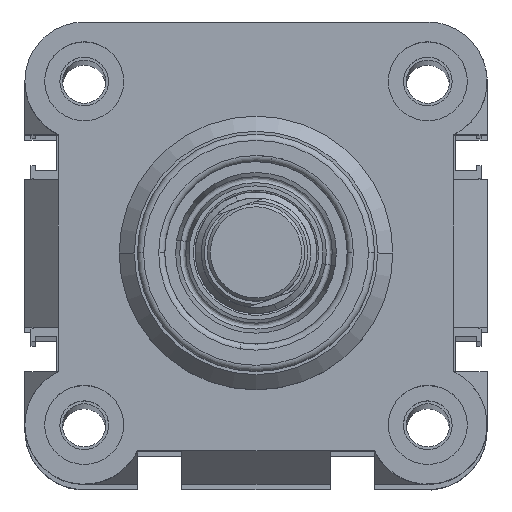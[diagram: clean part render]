
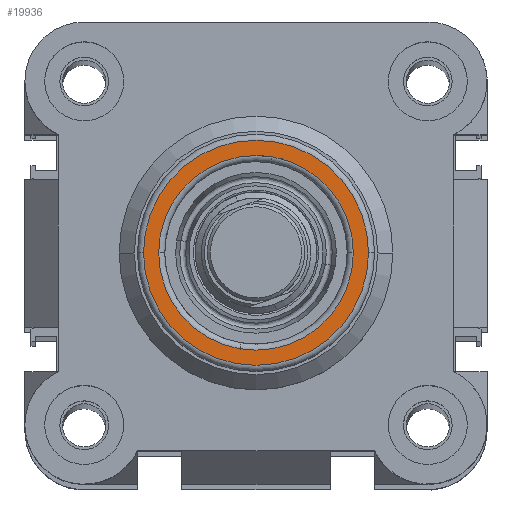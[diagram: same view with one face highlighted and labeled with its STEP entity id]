
A CAD part, top view. The second image highlights one B-rep face of the part: STEP entity #19936.
In plain terms, the highlighted planar face has unit normal (0, 0, 1).
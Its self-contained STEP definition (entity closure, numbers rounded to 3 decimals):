
#433 = ORIENTED_EDGE ( 'NONE', *, *, #19799, .T. ) ;
#803 = PLANE ( 'NONE',  #16048 ) ;
#947 = DIRECTION ( 'NONE',  ( 0., 0., 1. ) ) ;
#2030 = DIRECTION ( 'NONE',  ( 1., 0., 0. ) ) ;
#2181 = CARTESIAN_POINT ( 'NONE',  ( 38., 38., 62. ) ) ;
#2306 = ORIENTED_EDGE ( 'NONE', *, *, #6113, .T. ) ;
#2461 = CARTESIAN_POINT ( 'NONE',  ( 38., 38., 62. ) ) ;
#2465 = CARTESIAN_POINT ( 'NONE',  ( 38., 38., 62. ) ) ;
#3268 = CIRCLE ( 'NONE', #14479, 18.5 ) ;
#3815 = CARTESIAN_POINT ( 'NONE',  ( 38., 38., 62. ) ) ;
#4141 = AXIS2_PLACEMENT_3D ( 'NONE', #2461, #947, #4170 ) ;
#4170 = DIRECTION ( 'NONE',  ( 1., 0., 0. ) ) ;
#6113 = EDGE_CURVE ( 'NONE', #17623, #9978, #10698, .T. ) ;
#7248 = DIRECTION ( 'NONE',  ( 1., 0., 0. ) ) ;
#7425 = VERTEX_POINT ( 'NONE', #13466 ) ;
#7555 = ORIENTED_EDGE ( 'NONE', *, *, #19774, .T. ) ;
#8364 = CARTESIAN_POINT ( 'NONE',  ( 54., 38., 62. ) ) ;
#8496 = EDGE_LOOP ( 'NONE', ( #433, #21400 ) ) ;
#8858 = EDGE_LOOP ( 'NONE', ( #7555, #2306 ) ) ;
#9535 = CARTESIAN_POINT ( 'NONE',  ( 19.5, 38., 62. ) ) ;
#9978 = VERTEX_POINT ( 'NONE', #12219 ) ;
#10698 = CIRCLE ( 'NONE', #4141, 18.5 ) ;
#10809 = VERTEX_POINT ( 'NONE', #8364 ) ;
#12219 = CARTESIAN_POINT ( 'NONE',  ( 56.5, 38., 62. ) ) ;
#12570 = AXIS2_PLACEMENT_3D ( 'NONE', #2181, #13769, #2030 ) ;
#13204 = CIRCLE ( 'NONE', #20508, 16. ) ;
#13466 = CARTESIAN_POINT ( 'NONE',  ( 22., 38., 62. ) ) ;
#13769 = DIRECTION ( 'NONE',  ( 0., 0., -1. ) ) ;
#14479 = AXIS2_PLACEMENT_3D ( 'NONE', #3815, #20499, #7248 ) ;
#15066 = FACE_BOUND ( 'NONE', #8496, .T. ) ;
#15319 = CIRCLE ( 'NONE', #12570, 16. ) ;
#15583 = EDGE_CURVE ( 'NONE', #7425, #10809, #15319, .T. ) ;
#15687 = CARTESIAN_POINT ( 'NONE',  ( 38., 38., 62. ) ) ;
#16048 = AXIS2_PLACEMENT_3D ( 'NONE', #2465, #17865, #16260 ) ;
#16260 = DIRECTION ( 'NONE',  ( 1., 0., 0. ) ) ;
#17081 = DIRECTION ( 'NONE',  ( 0., 0., -1. ) ) ;
#17623 = VERTEX_POINT ( 'NONE', #9535 ) ;
#17865 = DIRECTION ( 'NONE',  ( 0., 0., 1. ) ) ;
#18963 = DIRECTION ( 'NONE',  ( 1., 0., 0. ) ) ;
#19774 = EDGE_CURVE ( 'NONE', #9978, #17623, #3268, .T. ) ;
#19799 = EDGE_CURVE ( 'NONE', #10809, #7425, #13204, .T. ) ;
#19936 = ADVANCED_FACE ( 'NONE', ( #15066, #21054 ), #803, .T. ) ;
#20499 = DIRECTION ( 'NONE',  ( 0., 0., 1. ) ) ;
#20508 = AXIS2_PLACEMENT_3D ( 'NONE', #15687, #17081, #18963 ) ;
#21054 = FACE_OUTER_BOUND ( 'NONE', #8858, .T. ) ;
#21400 = ORIENTED_EDGE ( 'NONE', *, *, #15583, .T. ) ;
